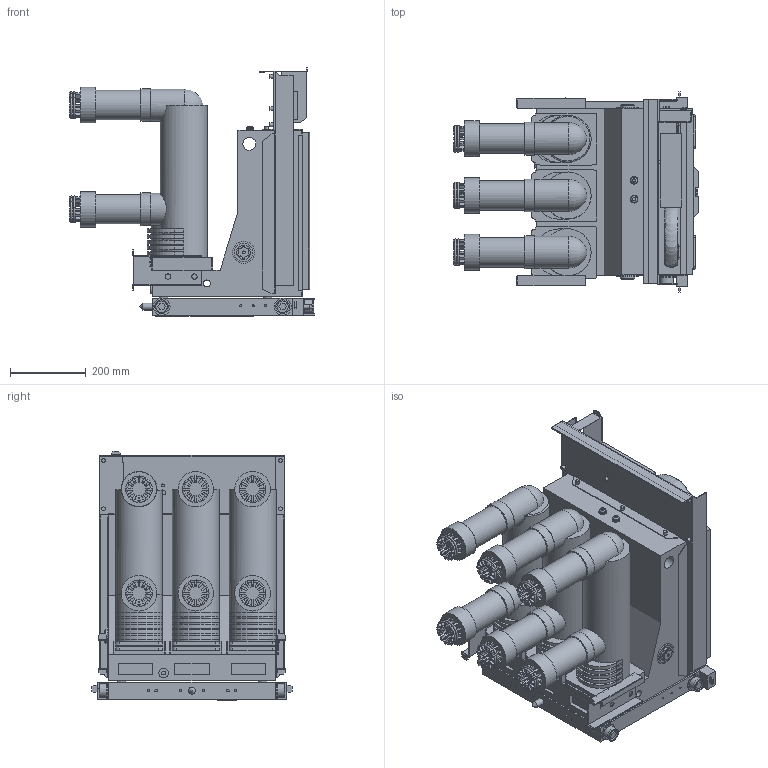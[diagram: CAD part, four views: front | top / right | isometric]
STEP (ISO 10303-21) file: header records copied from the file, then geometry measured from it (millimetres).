
FILE_DESCRIPTION(('STEP AP203'), '1');
FILE_NAME('ESQ BB(D) 12_630-25-150-M-Ó3', '', ('UNSPECIFIED'), ('UNSPECIFIED'), 'C3D Converter', 'C3D Toolkit', '');
FILE_SCHEMA(('CONFIG_CONTROL_DESIGN'));
Length unit declared in the file: millimetre
Assembly tree (4 placements, depth 3):
  (unnamed)
    (unnamed)
    (unnamed)
      (unnamed)  x2
Bounding box: 649 x 529 x 659.07 mm (x, y, z)
Volume: 79330644.4 mm3; surface area: 3446132.3 mm2
Topology: 9 solids, 9 shells, 4912 faces, 13795 edges, 9228 vertices
Faces by surface type: plane 2646, extrusion 1907, cylinder 327, torus 26, bspline 5, cone 1
Full cylindrical faces by diameter (mm): 2 x1, 4 x2, 5 x2, 6 x3, 7 x6, 7.647 x2, 8 x2, 9 x4, 10 x15, 11 x6, 12 x5, 14 x4, 16 x4, 17 x4, 18 x2, 20 x4, 24 x4, 25 x1, 26 x4, 30 x4, 34 x2, 36 x5, 38 x3, 44 x1, 45 x3, 49 x2, 58 x2, 78 x6, 84 x6, 86 x6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
Entity records: 271902 total; most frequent: CARTESIAN_POINT 113539, ORIENTED_EDGE 27288, DIRECTION 17912, EDGE_CURVE 13644, VECTOR 10448, VERTEX_POINT 9241, LINE 8541, B_SPLINE_CURVE_WITH_KNOTS 6280
